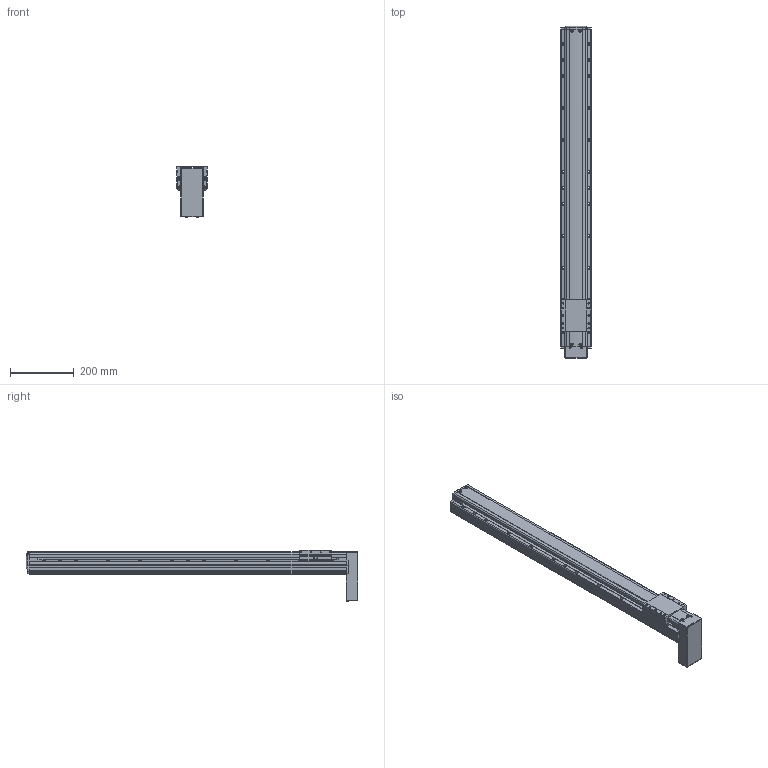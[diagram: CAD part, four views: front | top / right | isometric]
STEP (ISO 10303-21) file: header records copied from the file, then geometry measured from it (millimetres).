
FILE_DESCRIPTION(('STEP AP214'),'1');
FILE_NAME('Z:/Web/3D/PSA95/STP/PSA95-800 (3D)/PSA95ㅁㅁ-800PB.stp','2014-07-03T00:57:21',(' '),(' '),'Spatial InterOp 3D',' ',' ');
FILE_SCHEMA(('automotive_design'));
Length unit declared in the file: millimetre
Products named in the file (29): BASE; RRCV; 스크루 : Round - M4.0 x 10.0; 너트 : Square - M10.0 x 220.7419; RR1500; FRCV-090; 스크루 : Round - M4.0 x 6.0; SLBL-PA90; MTPL COVER; 스크루 : Round - M3.0 x 6.0; 1; 2
Bounding box: 95.1 x 1037.5 x 159.57 mm (x, y, z)
Volume: 5749480.9 mm3; surface area: 570545.6 mm2
Topology: 29 solids, 29 shells, 2093 faces, 5585 edges, 3551 vertices
Faces by surface type: plane 1138, cylinder 645, cone 222, sphere 50, bspline 24, torus 14
Entity records: 84092 total; most frequent: CARTESIAN_POINT 14345, DIRECTION 11084, ORIENTED_EDGE 10882, EDGE_CURVE 5441, AXIS2_PLACEMENT_3D 3724, LINE 3636, VECTOR 3636, VERTEX_POINT 3551
